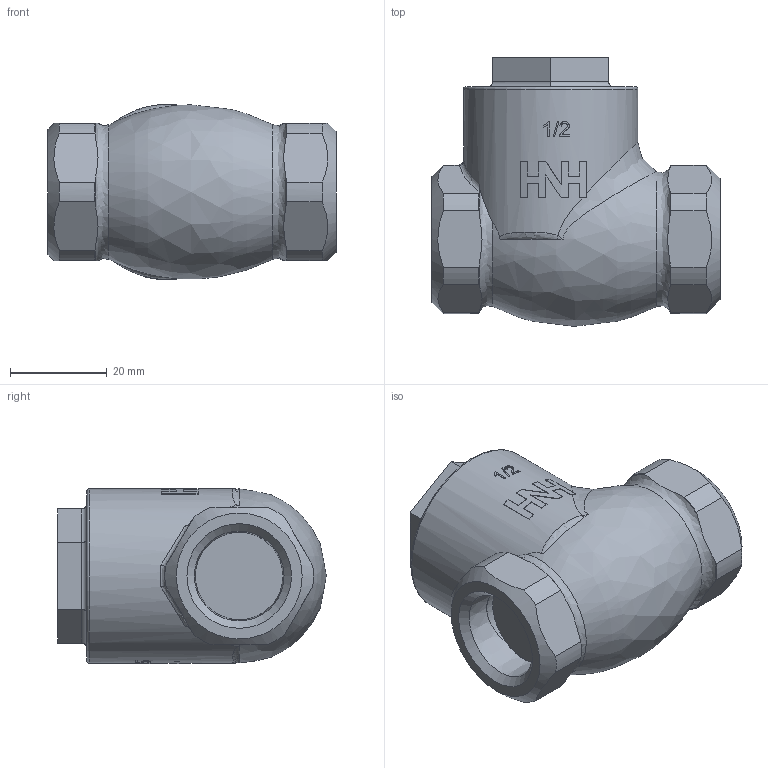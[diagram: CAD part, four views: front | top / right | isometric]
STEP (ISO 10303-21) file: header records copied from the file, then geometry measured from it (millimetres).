
FILE_DESCRIPTION((''),'2;1');
FILE_NAME('P:\Fastrack\53972_CRANE 3D\D142-138\Workspace\Check Valves\Fig-47_1-2in\Fig-47_1-2in.stp','2011-03-03T12:55:36',('btaylor'),(''),'Autodesk Inventor 2008','Autodesk Inventor 2008','');
FILE_SCHEMA(('AUTOMOTIVE_DESIGN { 1 0 10303 214 1 1 1 1 }'));
Length unit declared in the file: millimetre
Products named in the file (1): Fig-47_1-2in
Bounding box: 59.5 x 55.5 x 36.2 mm (x, y, z)
Volume: 53623.5 mm3; surface area: 13886.8 mm2
Topology: 1 solids, 2 shells, 222 faces, 612 edges, 404 vertices
Faces by surface type: plane 95, bspline 69, cylinder 39, cone 18, torus 1
Full cylindrical faces by diameter (mm): 36 x1
Entity records: 24906 total; most frequent: CARTESIAN_POINT 19774, ORIENTED_EDGE 1174, DIRECTION 754, EDGE_CURVE 587, VERTEX_POINT 395, AXIS2_PLACEMENT_3D 271, EDGE_LOOP 246, B_SPLINE_CURVE_WITH_KNOTS 222
